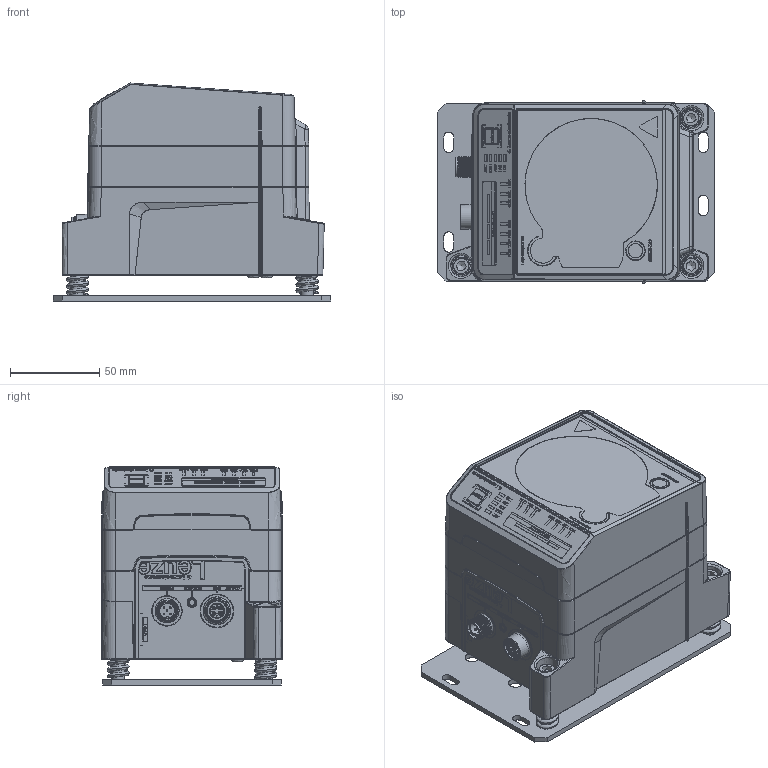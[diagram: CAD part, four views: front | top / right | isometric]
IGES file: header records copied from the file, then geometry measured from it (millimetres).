
Global section: file name: E:\lem\3DCAD_DDLS500_200m.igs; native system: NX V8.5; preprocessor: SIEMENS PLM Software NX 8.5; date: 20160701.094639; units: millimetre
Bounding box: 156 x 102.2 x 122.48 mm (x, y, z)
Surface area: 122954.2 mm2 (no closed solid volume)
Topology: 0 solids, 0 shells, 3019 faces, 17055 edges, 16939 vertices
Faces by surface type: bspline 3019
